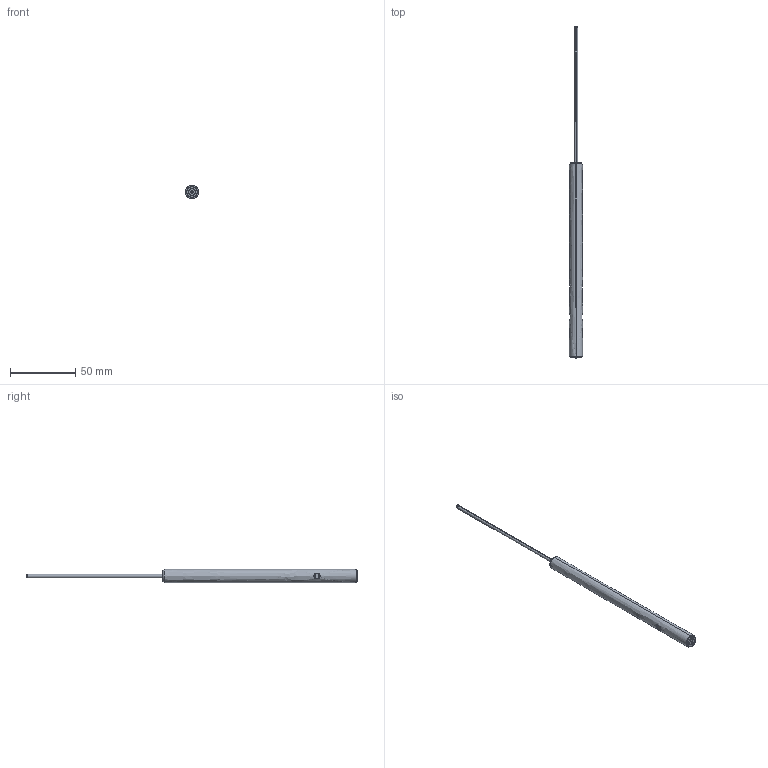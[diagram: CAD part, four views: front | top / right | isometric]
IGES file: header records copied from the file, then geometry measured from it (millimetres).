
Start section: SolidWorks IGES file using analytic representation for surfaces
Bounding box: 10 x 255 x 10 mm (x, y, z)
Surface area: 6063.3 mm2 (no closed solid volume)
Topology: 0 solids, 0 shells, 61 faces, 782 edges, 780 vertices
Faces by surface type: bspline 34, revolution 27
